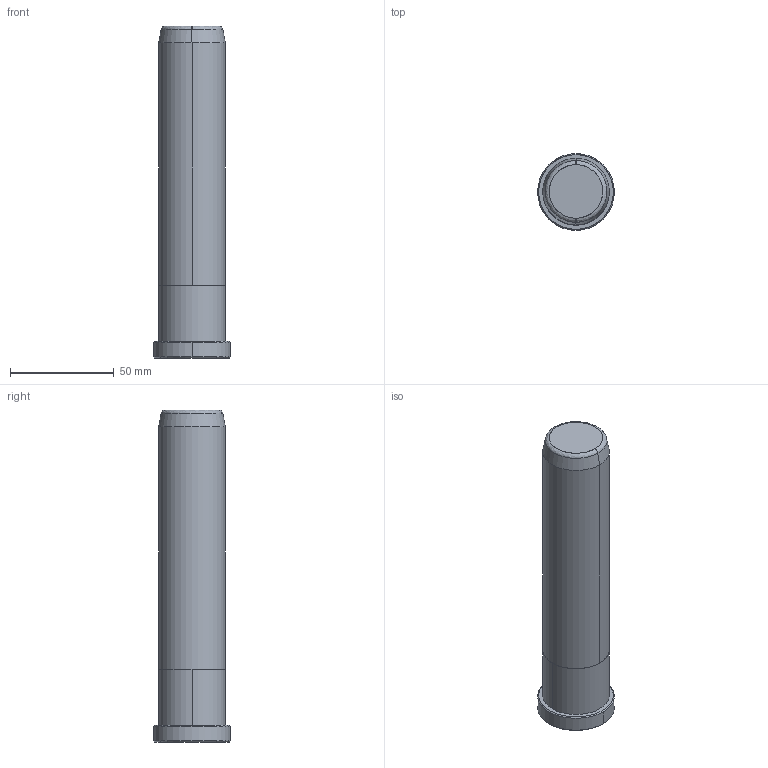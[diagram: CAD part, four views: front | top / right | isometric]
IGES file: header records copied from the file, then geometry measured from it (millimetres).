
Start section: START RECORD GO HERE.
Global section: file name: B80832160.igs; native system: DASSAULT SYSTEMES CATIA V5 R20 - www.3ds.com; preprocessor: CATIA Version 5 Release 20 ; author: Utente; organization: NB04-ASUS; date: 20200419.164743; units: millimetre
Bounding box: 37 x 37 x 160 mm (x, y, z)
Surface area: 18081.8 mm2 (no closed solid volume)
Topology: 0 solids, 0 shells, 20 faces, 80 edges, 80 vertices
Faces by surface type: revolution 16, plane 4
